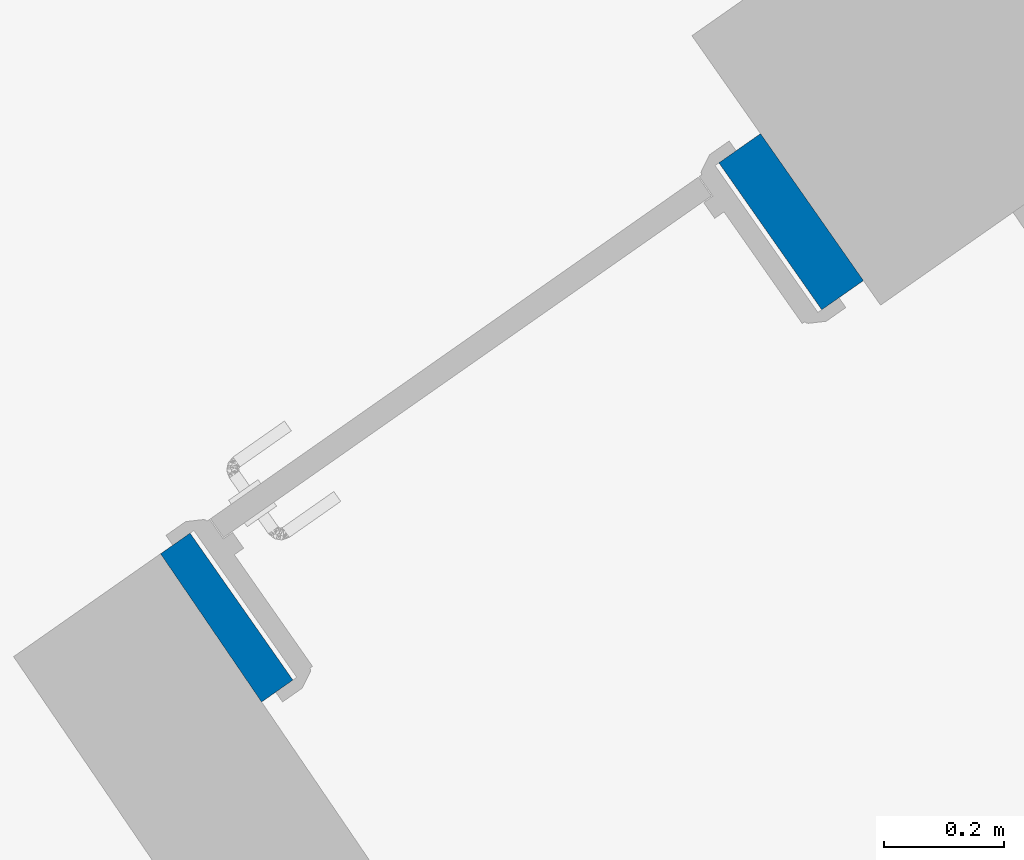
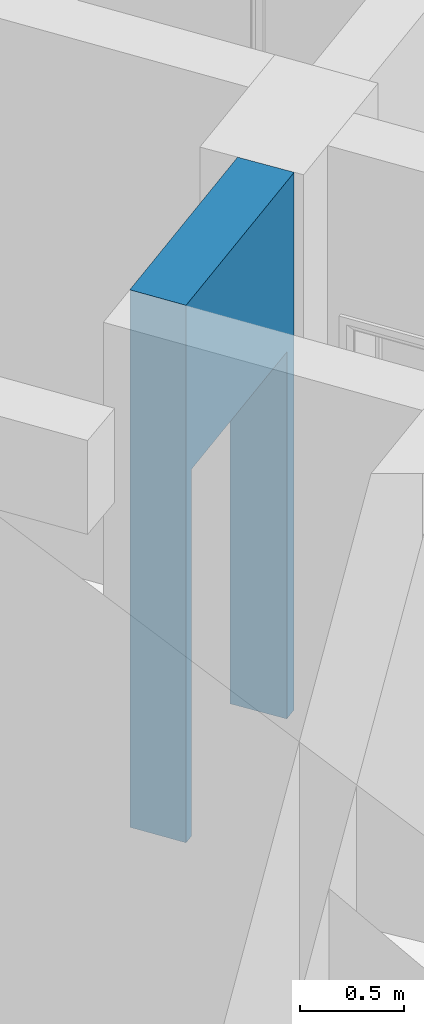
# One storey, part 43 of 112: 1 wall, 1 opening.
"""IFC2X3 building model written with IfcOpenShell, lengths in millimetres."""

from ifc_helpers import new_model, entity, si_unit, converted_unit, derived_unit, direction, frame, frame_2d, origin, place, context, subcontext, project, spatial, polyline, rectangle, outline, extrude, material, layer, layer_set, layer_usage, type_object, element, save


model = new_model("IFC2X3")

# Units and contexts
model_context = context("Model", 3, precision=0.01, world=origin(), true_north=direction((6.123031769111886e-17, 1.0)))
body_context = subcontext(model_context, "Body", "Model", "MODEL_VIEW")
ifc_project = project(units=[si_unit("LENGTHUNIT", "METRE", prefix="MILLI"), si_unit("AREAUNIT", "SQUARE_METRE"), si_unit("VOLUMEUNIT", "CUBIC_METRE"), converted_unit("PLANEANGLEUNIT", "DEGREE", entity("IfcRatioMeasure", 0.017453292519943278), si_unit("PLANEANGLEUNIT", "RADIAN"), dimensions=[0, 0, 0, 0, 0, 0, 0]), si_unit("MASSUNIT", "GRAM", prefix="KILO"), derived_unit("MASSDENSITYUNIT", [(si_unit("MASSUNIT", "GRAM", prefix="KILO"), 1), (si_unit("LENGTHUNIT", "METRE"), -3)]), derived_unit("MOMENTOFINERTIAUNIT", [(si_unit("LENGTHUNIT", "METRE"), 4)]), si_unit("TIMEUNIT", "SECOND"), si_unit("FREQUENCYUNIT", "HERTZ"), si_unit("THERMODYNAMICTEMPERATUREUNIT", "DEGREE_CELSIUS"), derived_unit("THERMALTRANSMITTANCEUNIT", [(si_unit("MASSUNIT", "GRAM", prefix="KILO"), 1), (si_unit("THERMODYNAMICTEMPERATUREUNIT", "KELVIN"), -1), (si_unit("TIMEUNIT", "SECOND"), -3)]), derived_unit("THERMALCONDUCTANCEUNIT", [(si_unit("MASSUNIT", "GRAM", prefix="KILO"), 1), (si_unit("LENGTHUNIT", "METRE"), 1), (si_unit("THERMODYNAMICTEMPERATUREUNIT", "KELVIN"), -1), (si_unit("TIMEUNIT", "SECOND"), -3)]), derived_unit("VOLUMETRICFLOWRATEUNIT", [(si_unit("LENGTHUNIT", "METRE"), 3), (si_unit("TIMEUNIT", "SECOND"), -1)]), derived_unit("MASSFLOWRATEUNIT", [(si_unit("MASSUNIT", "GRAM", prefix="KILO"), 1), (si_unit("TIMEUNIT", "SECOND"), -1)]), derived_unit("ROTATIONALFREQUENCYUNIT", [(si_unit("TIMEUNIT", "SECOND"), -1)]), si_unit("ELECTRICCURRENTUNIT", "AMPERE"), si_unit("ELECTRICVOLTAGEUNIT", "VOLT"), si_unit("POWERUNIT", "WATT"), converted_unit("FORCEUNIT", "KIP", entity("IfcRatioMeasure", 2.088543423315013e-05), si_unit("FORCEUNIT", "NEWTON"), dimensions=[1, 1, -2, 0, 0, 0, 0]), si_unit("ILLUMINANCEUNIT", "LUX"), si_unit("LUMINOUSFLUXUNIT", "LUMEN"), si_unit("LUMINOUSINTENSITYUNIT", "CANDELA"), derived_unit("USERDEFINED", [(si_unit("MASSUNIT", "GRAM", prefix="KILO"), -1), (si_unit("LENGTHUNIT", "METRE"), -2), (si_unit("TIMEUNIT", "SECOND"), 3), (si_unit("LUMINOUSFLUXUNIT", "LUMEN"), 1)]), derived_unit("USERDEFINED", [(si_unit("MASSUNIT", "GRAM", prefix="KILO"), 1), (si_unit("LENGTHUNIT", "METRE"), 3), (si_unit("TIMEUNIT", "SECOND"), -3), (si_unit("ELECTRICCURRENTUNIT", "AMPERE"), -2)]), derived_unit("USERDEFINED", [(si_unit("LENGTHUNIT", "METRE"), 2), (si_unit("TIMEUNIT", "SECOND"), -2)]), derived_unit("SOUNDPOWERUNIT", [(si_unit("MASSUNIT", "GRAM", prefix="KILO"), 1), (si_unit("LENGTHUNIT", "METRE"), 2), (si_unit("TIMEUNIT", "SECOND"), -3)]), derived_unit("SOUNDPRESSUREUNIT", [(si_unit("MASSUNIT", "GRAM", prefix="KILO"), 1), (si_unit("LENGTHUNIT", "METRE"), -1), (si_unit("TIMEUNIT", "SECOND"), -2)]), derived_unit("LINEARVELOCITYUNIT", [(si_unit("LENGTHUNIT", "METRE"), 1), (si_unit("TIMEUNIT", "SECOND"), -1)]), si_unit("PRESSUREUNIT", "PASCAL"), derived_unit("USERDEFINED", [(si_unit("LENGTHUNIT", "METRE"), -2), (si_unit("MASSUNIT", "GRAM", prefix="KILO"), 1), (si_unit("TIMEUNIT", "SECOND"), -2)]), derived_unit("LINEARFORCEUNIT", [(si_unit("MASSUNIT", "GRAM", prefix="KILO"), 1), (si_unit("LENGTHUNIT", "METRE"), 1), (si_unit("TIMEUNIT", "SECOND"), -2), (si_unit("LENGTHUNIT", "METRE"), -1)]), derived_unit("PLANARFORCEUNIT", [(si_unit("MASSUNIT", "GRAM", prefix="KILO"), 1), (si_unit("LENGTHUNIT", "METRE"), 1), (si_unit("TIMEUNIT", "SECOND"), -2), (si_unit("LENGTHUNIT", "METRE"), -2)]), derived_unit("SPECIFICHEATCAPACITYUNIT", [(si_unit("LENGTHUNIT", "METRE"), 2), (si_unit("TIMEUNIT", "SECOND"), -2), (si_unit("THERMODYNAMICTEMPERATUREUNIT", "KELVIN"), -1)]), derived_unit("VAPORPERMEABILITYUNIT", [(si_unit("TIMEUNIT", "SECOND"), 1), (si_unit("LENGTHUNIT", "METRE"), -1)]), derived_unit("DYNAMICVISCOSITYUNIT", [(si_unit("MASSUNIT", "GRAM", prefix="KILO"), 1), (si_unit("LENGTHUNIT", "METRE"), -1), (si_unit("TIMEUNIT", "SECOND"), -1)]), derived_unit("THERMALEXPANSIONCOEFFICIENTUNIT", [(si_unit("THERMODYNAMICTEMPERATUREUNIT", "KELVIN"), -1)])], contexts=[model_context])

# Site, building, storey
site_placement = place(None, frame((0.0, 0.0, 0.0), z_axis=(0.0, 0.0, 1.0), x_axis=(0.8191520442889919, 0.5735764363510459, 0.0)))
site = spatial("IfcSite", under=ifc_project, at=site_placement, Name="Default", CompositionType="ELEMENT")
building_placement = place(site_placement, origin())
building = spatial("IfcBuilding", under=site, at=building_placement, CompositionType="ELEMENT")
storey_placement = place(building_placement, frame((0.0, 0.0, -3600.0)))
storey = spatial("IfcBuildingStorey", under=building, at=storey_placement, Name="0.UG -3.60", CompositionType="ELEMENT", Elevation=-3600.0000000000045)

# Wall, opening
ifc_material = material(Name="Analytical Wall Surface_CJC")
ifc_layer = layer(ifc_material, 300.0)
ifc_layer_set = layer_set([ifc_layer], Name="Basic Wall:Wand_Aussen_30")
ifc_layer_usage = layer_usage(ifc_layer_set, "AXIS2", "NEGATIVE", 150.0)
wall_type = type_object("IfcWallType", Name="Basic Wall:Wand_Aussen_30", PredefinedType="STANDARD", material=ifc_layer_set)
wall_placement = place(storey_placement, frame((-219265.78545495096, 61421.358914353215, 300.0)))
wall = element("IfcWallStandardCase", 1, at=wall_placement, inside=storey, type_object=wall_type, material=ifc_layer_usage, Name="Basic Wall:Wand_Aussen_30", ObjectType="Basic Wall:Wand_Aussen_30", context=body_context, shape_type="SweptSolid", body=[
    extrude(outline(polyline([(0.0, -150.0), (1228.930603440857, -150.0), (1228.9306034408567, 150.0), (3.8191857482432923, 150.0), (0.0, -150.0)])), origin(), (0.0, 0.0, 1.0), 3150.0),
])
opening_placement = place(wall_placement, frame((63.90831990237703, -150.0, 0.0)))
element("IfcOpeningElement", 2, at=opening_placement, cuts=wall, Name="Doors_IntSgl:100x210:1", ObjectType="Opening", context=body_context, shape_type="SweptSolid", body=[
    extrude(rectangle(XDim=2150.000000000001, YDim=1079.9999999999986, at=frame_2d((1075.0000000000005, 539.9999999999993), x_axis=(1.0, 0.0))), frame((0.0, 0.0, 0.0), z_axis=(0.0, 1.0, 0.0), x_axis=(0.0, 0.0, 1.0)), (0.0, 0.0, 1.0), 300.0),
])

save(model, "model.ifc")
